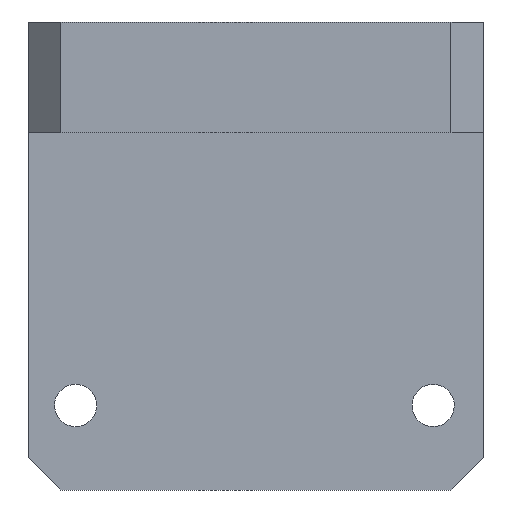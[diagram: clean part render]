
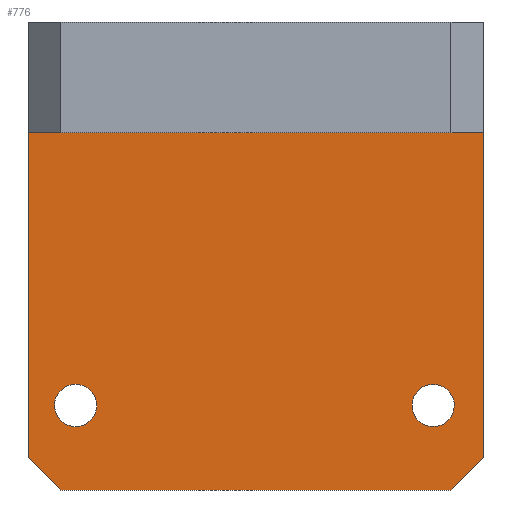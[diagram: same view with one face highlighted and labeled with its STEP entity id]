
A CAD part, front view. The second image highlights one B-rep face of the part: STEP entity #776.
In plain terms, the highlighted planar face has unit normal (0, -1, 0).
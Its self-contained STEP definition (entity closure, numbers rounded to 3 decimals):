
#81=AXIS2_PLACEMENT_3D('Circle Axis2P3D',#79,#80,$) ;
#107=AXIS2_PLACEMENT_3D('Circle Axis2P3D',#105,#106,$) ;
#743=AXIS2_PLACEMENT_3D('Plane Axis2P3D',#740,#741,#742) ;
#756=AXIS2_PLACEMENT_3D('Circle Axis2P3D',#754,#755,$) ;
#765=AXIS2_PLACEMENT_3D('Circle Axis2P3D',#763,#764,$) ;
#79=CARTESIAN_POINT('Axis2P3D Location',(7.25,20.,-42.)) ;
#83=CARTESIAN_POINT('Vertex',(4.398,20.,-43.558)) ;
#85=CARTESIAN_POINT('Vertex',(10.102,20.,-40.442)) ;
#105=CARTESIAN_POINT('Axis2P3D Location',(7.25,20.,-42.)) ;
#218=CARTESIAN_POINT('Vertex',(65.,20.,-55.)) ;
#221=CARTESIAN_POINT('Line Origine',(35.,20.,-55.)) ;
#225=CARTESIAN_POINT('Vertex',(5.,20.,-55.)) ;
#256=CARTESIAN_POINT('Vertex',(0.,20.,-50.)) ;
#259=CARTESIAN_POINT('Line Origine',(0.,20.,-25.)) ;
#263=CARTESIAN_POINT('Vertex',(0.,20.,0.)) ;
#538=CARTESIAN_POINT('Vertex',(35.,20.,0.)) ;
#602=CARTESIAN_POINT('Line Origine',(17.5,20.,0.)) ;
#607=CARTESIAN_POINT('Line Origine',(52.5,20.,0.)) ;
#611=CARTESIAN_POINT('Vertex',(70.,20.,0.)) ;
#684=CARTESIAN_POINT('Line Origine',(2.5,20.,-52.5)) ;
#701=CARTESIAN_POINT('Line Origine',(67.5,20.,-52.5)) ;
#705=CARTESIAN_POINT('Vertex',(70.,20.,-50.)) ;
#725=CARTESIAN_POINT('Line Origine',(70.,20.,-25.)) ;
#740=CARTESIAN_POINT('Axis2P3D Location',(0.,20.,0.)) ;
#754=CARTESIAN_POINT('Axis2P3D Location',(62.25,20.,-42.)) ;
#758=CARTESIAN_POINT('Vertex',(59.398,20.,-43.558)) ;
#760=CARTESIAN_POINT('Vertex',(65.102,20.,-40.442)) ;
#763=CARTESIAN_POINT('Axis2P3D Location',(62.25,20.,-42.)) ;
#80=DIRECTION('Axis2P3D Direction',(0.,-1.,-0.)) ;
#106=DIRECTION('Axis2P3D Direction',(0.,-1.,-0.)) ;
#222=DIRECTION('Vector Direction',(1.,0.,0.)) ;
#260=DIRECTION('Vector Direction',(0.,0.,1.)) ;
#603=DIRECTION('Vector Direction',(-1.,0.,0.)) ;
#608=DIRECTION('Vector Direction',(-1.,0.,0.)) ;
#685=DIRECTION('Vector Direction',(0.707,0.,-0.707)) ;
#702=DIRECTION('Vector Direction',(-0.707,0.,-0.707)) ;
#726=DIRECTION('Vector Direction',(0.,0.,-1.)) ;
#741=DIRECTION('Axis2P3D Direction',(0.,1.,0.)) ;
#742=DIRECTION('Axis2P3D XDirection',(-1.,0.,0.)) ;
#755=DIRECTION('Axis2P3D Direction',(0.,1.,0.)) ;
#764=DIRECTION('Axis2P3D Direction',(0.,1.,0.)) ;
#223=VECTOR('Line Direction',#222,1.) ;
#261=VECTOR('Line Direction',#260,1.) ;
#604=VECTOR('Line Direction',#603,1.) ;
#609=VECTOR('Line Direction',#608,1.) ;
#686=VECTOR('Line Direction',#685,1.) ;
#703=VECTOR('Line Direction',#702,1.) ;
#727=VECTOR('Line Direction',#726,1.) ;
#746=ORIENTED_EDGE('',*,*,#688,.F.) ;
#747=ORIENTED_EDGE('',*,*,#227,.F.) ;
#748=ORIENTED_EDGE('',*,*,#707,.F.) ;
#749=ORIENTED_EDGE('',*,*,#729,.F.) ;
#750=ORIENTED_EDGE('',*,*,#613,.F.) ;
#751=ORIENTED_EDGE('',*,*,#606,.F.) ;
#752=ORIENTED_EDGE('',*,*,#265,.F.) ;
#769=ORIENTED_EDGE('',*,*,#762,.T.) ;
#770=ORIENTED_EDGE('',*,*,#767,.T.) ;
#773=ORIENTED_EDGE('',*,*,#109,.T.) ;
#774=ORIENTED_EDGE('',*,*,#87,.T.) ;
#771=FACE_BOUND('',#768,.T.) ;
#775=FACE_BOUND('',#772,.T.) ;
#776=ADVANCED_FACE('\X2\96F64EF651E04F554F53\X0\',(#753,#771,#775),#744,.F.) ;
#82=CIRCLE('generated circle',#81,3.25) ;
#108=CIRCLE('generated circle',#107,3.25) ;
#757=CIRCLE('generated circle',#756,3.25) ;
#766=CIRCLE('generated circle',#765,3.25) ;
#87=EDGE_CURVE('',#84,#86,#82,.F.) ;
#109=EDGE_CURVE('',#86,#84,#108,.F.) ;
#227=EDGE_CURVE('',#219,#226,#224,.F.) ;
#265=EDGE_CURVE('',#257,#264,#262,.T.) ;
#606=EDGE_CURVE('',#264,#539,#605,.F.) ;
#613=EDGE_CURVE('',#539,#612,#610,.F.) ;
#688=EDGE_CURVE('',#226,#257,#687,.F.) ;
#707=EDGE_CURVE('',#706,#219,#704,.T.) ;
#729=EDGE_CURVE('',#612,#706,#728,.T.) ;
#762=EDGE_CURVE('',#759,#761,#757,.T.) ;
#767=EDGE_CURVE('',#761,#759,#766,.T.) ;
#745=EDGE_LOOP('',(#746,#747,#748,#749,#750,#751,#752)) ;
#768=EDGE_LOOP('',(#769,#770)) ;
#772=EDGE_LOOP('',(#773,#774)) ;
#753=FACE_OUTER_BOUND('',#745,.T.) ;
#224=LINE('Line',#221,#223) ;
#262=LINE('Line',#259,#261) ;
#605=LINE('Line',#602,#604) ;
#610=LINE('Line',#607,#609) ;
#687=LINE('Line',#684,#686) ;
#704=LINE('Line',#701,#703) ;
#728=LINE('Line',#725,#727) ;
#744=PLANE('',#743) ;
#84=VERTEX_POINT('',#83) ;
#86=VERTEX_POINT('',#85) ;
#219=VERTEX_POINT('',#218) ;
#226=VERTEX_POINT('',#225) ;
#257=VERTEX_POINT('',#256) ;
#264=VERTEX_POINT('',#263) ;
#539=VERTEX_POINT('',#538) ;
#612=VERTEX_POINT('',#611) ;
#706=VERTEX_POINT('',#705) ;
#759=VERTEX_POINT('',#758) ;
#761=VERTEX_POINT('',#760) ;
